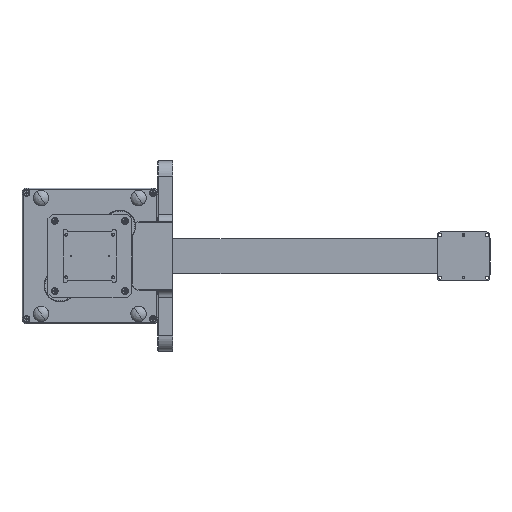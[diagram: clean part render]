
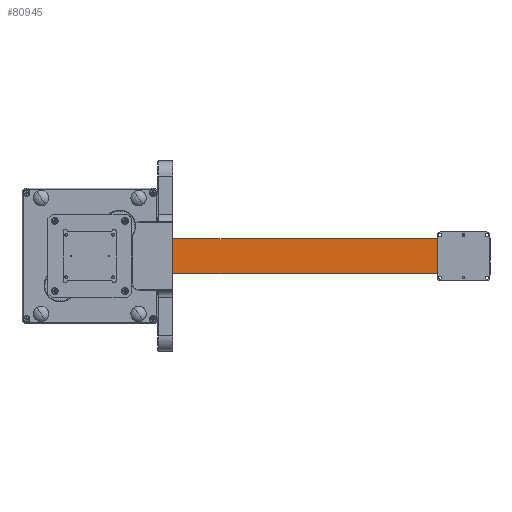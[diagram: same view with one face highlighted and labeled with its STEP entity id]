
A CAD part, front view. The second image highlights one B-rep face of the part: STEP entity #80945.
In plain terms, the highlighted planar face has unit normal (0, -1, 0).
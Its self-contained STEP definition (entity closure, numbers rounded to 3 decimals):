
#5621 = ORIENTED_EDGE ( 'NONE', *, *, #183383, .F. ) ;
#5748 = LINE ( 'NONE', #118774, #87445 ) ;
#12175 = VECTOR ( 'NONE', #159337, 1000. ) ;
#14227 = DIRECTION ( 'NONE',  ( 0., 0., -1. ) ) ;
#17725 = ORIENTED_EDGE ( 'NONE', *, *, #108663, .F. ) ;
#21157 = VERTEX_POINT ( 'NONE', #203369 ) ;
#21455 = EDGE_CURVE ( 'NONE', #124275, #21157, #69058, .T. ) ;
#26573 = CARTESIAN_POINT ( 'NONE',  ( -18.928, 0., -45.049 ) ) ;
#29345 = DIRECTION ( 'NONE',  ( 0., 0., 1. ) ) ;
#29467 = VERTEX_POINT ( 'NONE', #26573 ) ;
#29540 = ORIENTED_EDGE ( 'NONE', *, *, #217286, .F. ) ;
#29652 = DIRECTION ( 'NONE',  ( 0., 0., -1. ) ) ;
#30852 = CARTESIAN_POINT ( 'NONE',  ( -14.078, 0., 178.191 ) ) ;
#33846 = EDGE_CURVE ( 'NONE', #72028, #228946, #142323, .T. ) ;
#34239 = LINE ( 'NONE', #109981, #242358 ) ;
#41690 = CARTESIAN_POINT ( 'NONE',  ( -95.951, 0., 98.165 ) ) ;
#52525 = CARTESIAN_POINT ( 'NONE',  ( -21.678, 0., -39.499 ) ) ;
#54863 = EDGE_CURVE ( 'NONE', #211982, #124275, #114325, .T. ) ;
#58779 = VECTOR ( 'NONE', #80481, 1000. ) ;
#61331 = LINE ( 'NONE', #137074, #12175 ) ;
#63450 = DIRECTION ( 'NONE',  ( 0., 0., -1. ) ) ;
#64678 = FACE_BOUND ( 'NONE', #80700, .T. ) ;
#69058 = LINE ( 'NONE', #144790, #212060 ) ;
#72028 = VERTEX_POINT ( 'NONE', #193704 ) ;
#73025 = ORIENTED_EDGE ( 'NONE', *, *, #108032, .F. ) ;
#73832 = DIRECTION ( 'NONE',  ( -1., 0., 0. ) ) ;
#78180 = EDGE_LOOP ( 'NONE', ( #17725, #145972, #119012, #85579, #125164, #199576, #29540, #5621 ) ) ;
#80481 = DIRECTION ( 'NONE',  ( 1., 0., 0. ) ) ;
#80700 = EDGE_LOOP ( 'NONE', ( #73025, #137884, #235804, #165603 ) ) ;
#80945 = ADVANCED_FACE ( 'NONE', ( #64678, #197483 ), #163569, .T. ) ;
#83296 = DIRECTION ( 'NONE',  ( 0., -1., 0. ) ) ;
#85579 = ORIENTED_EDGE ( 'NONE', *, *, #236251, .F. ) ;
#87445 = VECTOR ( 'NONE', #133718, 1000. ) ;
#88756 = CARTESIAN_POINT ( 'NONE',  ( -39.178, 0., 0. ) ) ;
#91017 = VERTEX_POINT ( 'NONE', #52525 ) ;
#93663 = CARTESIAN_POINT ( 'NONE',  ( -41.928, 0., -11.599 ) ) ;
#96351 = DIRECTION ( 'NONE',  ( -0.715, 0., -0.699 ) ) ;
#104314 = VECTOR ( 'NONE', #231767, 1000. ) ;
#104880 = VERTEX_POINT ( 'NONE', #126323 ) ;
#108032 = EDGE_CURVE ( 'NONE', #91017, #127680, #34239, .T. ) ;
#108663 = EDGE_CURVE ( 'NONE', #238323, #29467, #203401, .T. ) ;
#109981 = CARTESIAN_POINT ( 'NONE',  ( -21.678, 0., 0. ) ) ;
#112293 = LINE ( 'NONE', #93663, #115958 ) ;
#114325 = LINE ( 'NONE', #186381, #128967 ) ;
#115958 = VECTOR ( 'NONE', #242615, 1000. ) ;
#118774 = CARTESIAN_POINT ( 'NONE',  ( 0., 0., -21.499 ) ) ;
#119012 = ORIENTED_EDGE ( 'NONE', *, *, #33846, .F. ) ;
#120196 = EDGE_CURVE ( 'NONE', #127680, #104880, #5748, .T. ) ;
#121079 = AXIS2_PLACEMENT_3D ( 'NONE', #140393, #83296, #63450 ) ;
#124275 = VERTEX_POINT ( 'NONE', #227166 ) ;
#125164 = ORIENTED_EDGE ( 'NONE', *, *, #21455, .F. ) ;
#126323 = CARTESIAN_POINT ( 'NONE',  ( -39.178, 0., -21.499 ) ) ;
#127680 = VERTEX_POINT ( 'NONE', #133628 ) ;
#128967 = VECTOR ( 'NONE', #204977, 1000. ) ;
#132975 = EDGE_CURVE ( 'NONE', #228946, #238323, #190700, .T. ) ;
#133628 = CARTESIAN_POINT ( 'NONE',  ( -21.678, 0., -21.499 ) ) ;
#133718 = DIRECTION ( 'NONE',  ( -1., 0., 0. ) ) ;
#136368 = CARTESIAN_POINT ( 'NONE',  ( 0., 0., -39.499 ) ) ;
#137074 = CARTESIAN_POINT ( 'NONE',  ( -46.778, 0., 184.191 ) ) ;
#137884 = ORIENTED_EDGE ( 'NONE', *, *, #181583, .F. ) ;
#138702 = VECTOR ( 'NONE', #14227, 1000. ) ;
#140393 = CARTESIAN_POINT ( 'NONE',  ( 0., 0., 0. ) ) ;
#142323 = LINE ( 'NONE', #218031, #104314 ) ;
#144790 = CARTESIAN_POINT ( 'NONE',  ( -46.778, 0., 184.191 ) ) ;
#145890 = LINE ( 'NONE', #202968, #245689 ) ;
#145972 = ORIENTED_EDGE ( 'NONE', *, *, #132975, .F. ) ;
#151307 = LINE ( 'NONE', #136368, #58779 ) ;
#159337 = DIRECTION ( 'NONE',  ( 1., 0., 0. ) ) ;
#163181 = CARTESIAN_POINT ( 'NONE',  ( -41.928, 0., -45.049 ) ) ;
#163569 = PLANE ( 'NONE',  #121079 ) ;
#165603 = ORIENTED_EDGE ( 'NONE', *, *, #120196, .F. ) ;
#166104 = CARTESIAN_POINT ( 'NONE',  ( -18.928, 0., 173.451 ) ) ;
#169029 = CARTESIAN_POINT ( 'NONE',  ( -41.928, 0., 173.451 ) ) ;
#169255 = VECTOR ( 'NONE', #96351, 1000. ) ;
#181583 = EDGE_CURVE ( 'NONE', #190036, #91017, #151307, .T. ) ;
#182342 = CARTESIAN_POINT ( 'NONE',  ( -18.928, 0., -46.549 ) ) ;
#183383 = EDGE_CURVE ( 'NONE', #29467, #207660, #145890, .T. ) ;
#186381 = CARTESIAN_POINT ( 'NONE',  ( 66.217, 0., 67.745 ) ) ;
#186936 = DIRECTION ( 'NONE',  ( 0., 0., 1. ) ) ;
#190036 = VERTEX_POINT ( 'NONE', #241565 ) ;
#190700 = LINE ( 'NONE', #41690, #169255 ) ;
#193704 = CARTESIAN_POINT ( 'NONE',  ( -14.078, 0., 184.191 ) ) ;
#194973 = EDGE_CURVE ( 'NONE', #104880, #190036, #200502, .T. ) ;
#197483 = FACE_OUTER_BOUND ( 'NONE', #78180, .T. ) ;
#199576 = ORIENTED_EDGE ( 'NONE', *, *, #54863, .F. ) ;
#200502 = LINE ( 'NONE', #88756, #138702 ) ;
#202968 = CARTESIAN_POINT ( 'NONE',  ( -41.928, 0., -45.049 ) ) ;
#203369 = CARTESIAN_POINT ( 'NONE',  ( -46.778, 0., 184.191 ) ) ;
#203401 = LINE ( 'NONE', #182342, #234751 ) ;
#204977 = DIRECTION ( 'NONE',  ( -0.715, 0., 0.699 ) ) ;
#207660 = VERTEX_POINT ( 'NONE', #163181 ) ;
#211982 = VERTEX_POINT ( 'NONE', #169029 ) ;
#212060 = VECTOR ( 'NONE', #29345, 1000. ) ;
#217286 = EDGE_CURVE ( 'NONE', #207660, #211982, #112293, .T. ) ;
#218031 = CARTESIAN_POINT ( 'NONE',  ( -14.078, 0., 184.191 ) ) ;
#227166 = CARTESIAN_POINT ( 'NONE',  ( -46.778, 0., 178.191 ) ) ;
#228946 = VERTEX_POINT ( 'NONE', #30852 ) ;
#231767 = DIRECTION ( 'NONE',  ( 0., 0., -1. ) ) ;
#234751 = VECTOR ( 'NONE', #29652, 1000. ) ;
#235804 = ORIENTED_EDGE ( 'NONE', *, *, #194973, .F. ) ;
#236251 = EDGE_CURVE ( 'NONE', #21157, #72028, #61331, .T. ) ;
#238323 = VERTEX_POINT ( 'NONE', #166104 ) ;
#241565 = CARTESIAN_POINT ( 'NONE',  ( -39.178, 0., -39.499 ) ) ;
#242358 = VECTOR ( 'NONE', #186936, 1000. ) ;
#242615 = DIRECTION ( 'NONE',  ( 0., 0., 1. ) ) ;
#245689 = VECTOR ( 'NONE', #73832, 1000. ) ;
